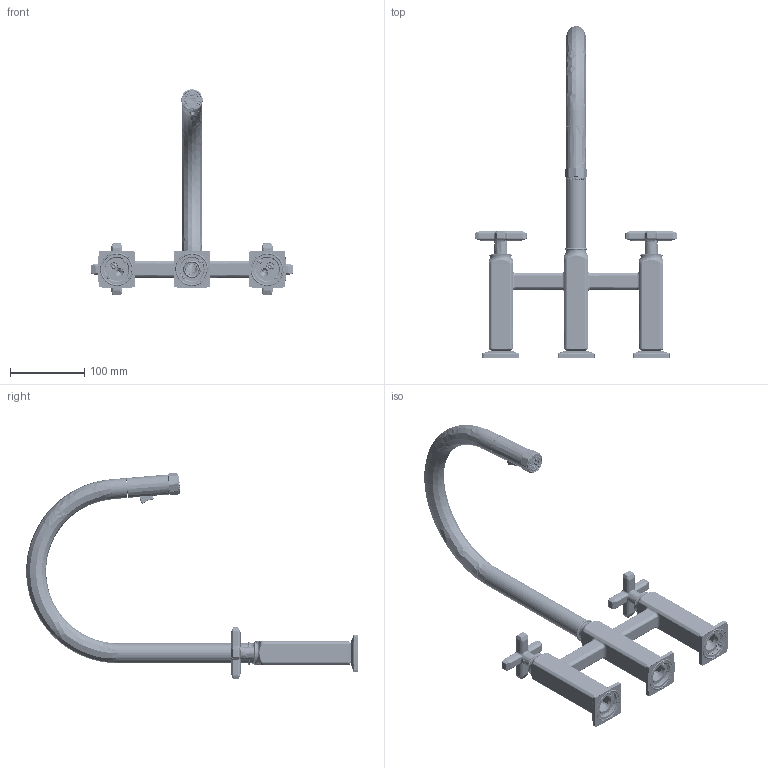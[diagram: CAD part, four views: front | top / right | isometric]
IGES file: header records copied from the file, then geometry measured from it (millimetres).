
Start section: SolidWorks IGES file using analytic representation for surfaces
Global section: file name: C:\Users\ccai\Desktop\CeliaC\Projects\0823-ADHOC-02350 & 02351 LINEART+NF\SKU_AP58D3XMseries_IGS\sku_AP58D3XMseries_igs.IGS; native system: SolidWorks 2023; preprocessor: SolidWorks 2023; author: ccai; date: 240809.140257; units: inch
Bounding box: 273.05 x 448.25 x 278.69 mm (x, y, z)
Surface area: 344403.2 mm2 (no closed solid volume)
Topology: 0 solids, 0 shells, 9529 faces, 88293 edges, 87993 vertices
Faces by surface type: bspline 5678, revolution 3851
